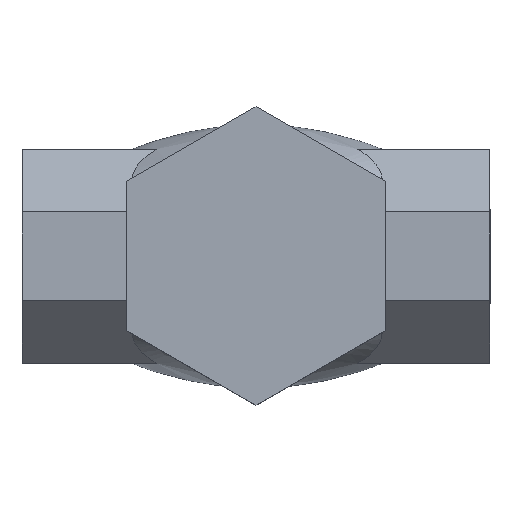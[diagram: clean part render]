
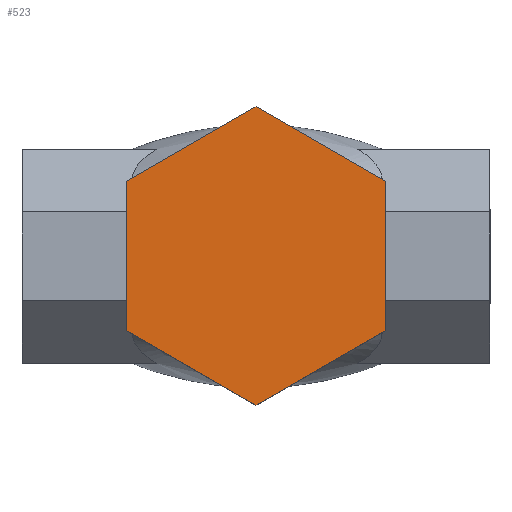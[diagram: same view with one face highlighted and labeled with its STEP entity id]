
A CAD part, top view. The second image highlights one B-rep face of the part: STEP entity #523.
In plain terms, the highlighted planar face has unit normal (0, 0, 1).
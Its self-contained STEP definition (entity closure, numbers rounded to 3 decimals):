
#47=FACE_OUTER_BOUND('',#75,.T.);
#75=EDGE_LOOP('',(#458,#459,#460,#461,#462,#463));
#111=LINE('',#1284,#162);
#115=LINE('',#1292,#166);
#118=LINE('',#1298,#169);
#121=LINE('',#1304,#172);
#124=LINE('',#1310,#175);
#127=LINE('',#1315,#178);
#162=VECTOR('',#644,10.);
#166=VECTOR('',#650,10.);
#169=VECTOR('',#655,10.);
#172=VECTOR('',#660,10.);
#175=VECTOR('',#665,10.);
#178=VECTOR('',#670,10.);
#237=VERTEX_POINT('',#1282);
#238=VERTEX_POINT('',#1283);
#241=VERTEX_POINT('',#1291);
#243=VERTEX_POINT('',#1297);
#245=VERTEX_POINT('',#1303);
#247=VERTEX_POINT('',#1309);
#305=EDGE_CURVE('',#237,#238,#111,.T.);
#309=EDGE_CURVE('',#238,#241,#115,.T.);
#312=EDGE_CURVE('',#241,#243,#118,.T.);
#315=EDGE_CURVE('',#243,#245,#121,.T.);
#318=EDGE_CURVE('',#245,#247,#124,.T.);
#321=EDGE_CURVE('',#247,#237,#127,.T.);
#458=ORIENTED_EDGE('',*,*,#321,.T.);
#459=ORIENTED_EDGE('',*,*,#305,.T.);
#460=ORIENTED_EDGE('',*,*,#309,.T.);
#461=ORIENTED_EDGE('',*,*,#312,.T.);
#462=ORIENTED_EDGE('',*,*,#315,.T.);
#463=ORIENTED_EDGE('',*,*,#318,.T.);
#495=PLANE('',#565);
#523=ADVANCED_FACE('',(#47),#495,.T.);
#565=AXIS2_PLACEMENT_3D('',#1317,#672,#673);
#644=DIRECTION('',(0.866,-0.5,0.));
#650=DIRECTION('',(0.866,0.5,0.));
#655=DIRECTION('',(0.,1.,0.));
#660=DIRECTION('',(-0.866,0.5,0.));
#665=DIRECTION('',(-0.866,-0.5,0.));
#670=DIRECTION('',(0.,-1.,0.));
#672=DIRECTION('center_axis',(0.,0.,1.));
#673=DIRECTION('ref_axis',(1.,0.,0.));
#1282=CARTESIAN_POINT('',(-29.,-16.743,57.5));
#1283=CARTESIAN_POINT('',(0.,-33.486,57.5));
#1284=CARTESIAN_POINT('',(-29.,-16.743,57.5));
#1291=CARTESIAN_POINT('',(29.,-16.743,57.5));
#1292=CARTESIAN_POINT('',(0.,-33.486,57.5));
#1297=CARTESIAN_POINT('',(29.,16.743,57.5));
#1298=CARTESIAN_POINT('',(29.,-16.743,57.5));
#1303=CARTESIAN_POINT('',(0.,33.486,57.5));
#1304=CARTESIAN_POINT('',(29.,16.743,57.5));
#1309=CARTESIAN_POINT('',(-29.,16.743,57.5));
#1310=CARTESIAN_POINT('',(0.,33.486,57.5));
#1315=CARTESIAN_POINT('',(-29.,16.743,57.5));
#1317=CARTESIAN_POINT('Origin',(0.,0.,
57.5));
